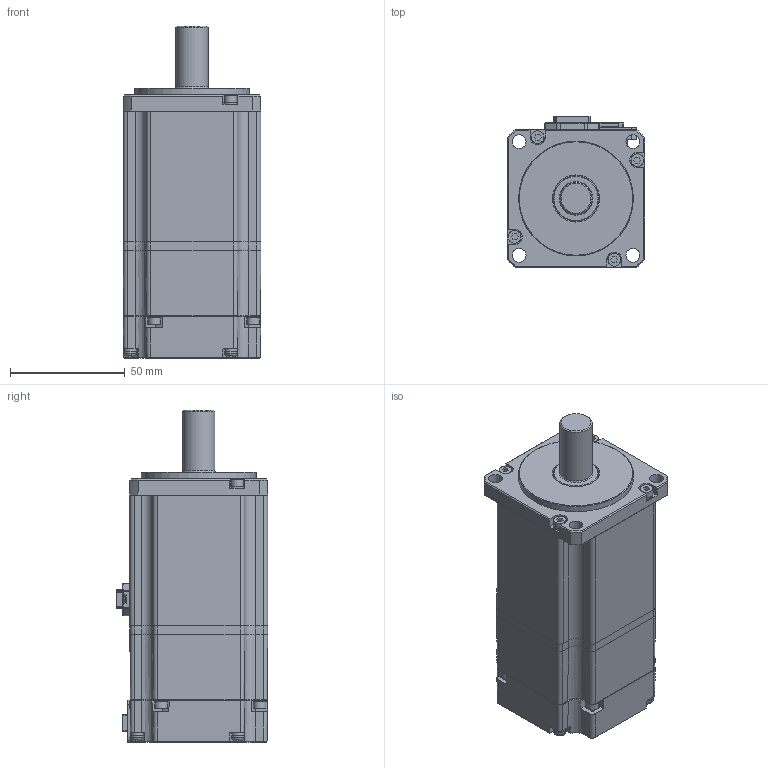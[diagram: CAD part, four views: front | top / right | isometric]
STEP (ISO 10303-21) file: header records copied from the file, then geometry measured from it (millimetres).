
FILE_DESCRIPTION (( 'STEP AP214' ), '1' );
FILE_NAME ('EM06GA004G03_Out Line(APM-EB04AM3N2).STEP', '2022-11-10T03:04:48', ( '' ), ( '' ), 'SwSTEP 2.0', 'SolidWorks 2021', '' );
FILE_SCHEMA (( 'AUTOMOTIVE_DESIGN' ));
Length unit declared in the file: millimetre
Products named in the file (1): EM06GA004G03_Out Line(APM-EB04AM3N2)
Bounding box: 60 x 65.9 x 144.5 mm (x, y, z)
Volume: 376895.6 mm3; surface area: 72998.1 mm2
Topology: 34 solids, 34 shells, 1555 faces, 3915 edges, 2491 vertices
Faces by surface type: plane 1113, cylinder 236, cone 143, torus 31, bspline 18, sphere 14
Full cylindrical faces by diameter (mm): 1.6 x10, 2 x2, 2.1 x2, 2.5 x16, 3 x16, 3.1 x8, 3.5 x4, 5.4 x8, 5.5 x8, 5.6 x8, 14 x1, 19.8 x1, 20.5 x1, 50 x1
Entity records: 63157 total; most frequent: CARTESIAN_POINT 9356, ORIENTED_EDGE 7424, DIRECTION 7193, EDGE_CURVE 3712, VECTOR 2753, LINE 2753, VERTEX_POINT 2436, AXIS2_PLACEMENT_3D 2220
